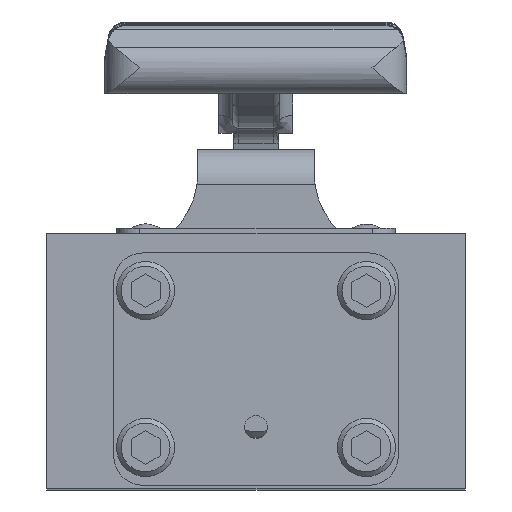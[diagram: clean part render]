
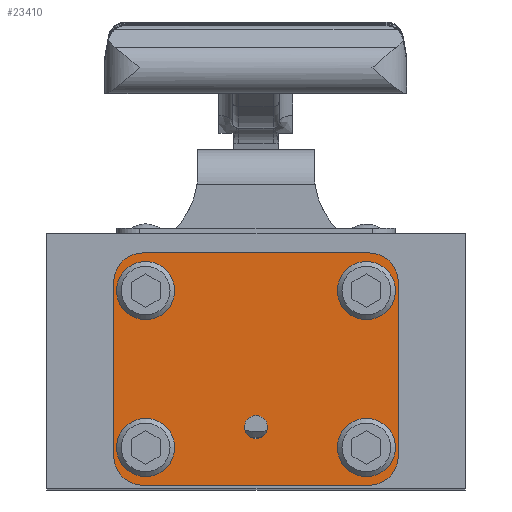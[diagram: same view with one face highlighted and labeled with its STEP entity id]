
A CAD part, top view. The second image highlights one B-rep face of the part: STEP entity #23410.
In plain terms, the highlighted planar face has unit normal (0, 0, 1).
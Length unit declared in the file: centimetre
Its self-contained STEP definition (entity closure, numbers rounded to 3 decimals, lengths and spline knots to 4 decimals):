
#1947=LINE('',#41058,#3497);
#1955=LINE('',#41078,#3505);
#1963=LINE('',#41098,#3513);
#1971=LINE('',#41118,#3521);
#3497=VECTOR('',#30058,3.0963);
#3505=VECTOR('',#30074,2.3825);
#3513=VECTOR('',#30090,3.0963);
#3521=VECTOR('',#30106,2.3825);
#4498=FACE_BOUND('',#7353,.T.);
#4499=FACE_BOUND('',#7354,.T.);
#4500=FACE_BOUND('',#7355,.T.);
#4501=FACE_BOUND('',#7356,.T.);
#4502=FACE_BOUND('',#7357,.T.);
#5862=FACE_OUTER_BOUND('',#7352,.T.);
#7352=EDGE_LOOP('',(#18437,#18438,#18439,#18440,#18441,#18442,#18443,#18444));
#7353=EDGE_LOOP('',(#18445));
#7354=EDGE_LOOP('',(#18446));
#7355=EDGE_LOOP('',(#18447));
#7356=EDGE_LOOP('',(#18448));
#7357=EDGE_LOOP('',(#18449));
#8733=CIRCLE('',#25483,0.3962);
#8734=CIRCLE('',#25484,0.3962);
#8735=CIRCLE('',#25485,0.3962);
#8736=CIRCLE('',#25486,0.3962);
#8737=CIRCLE('',#25487,0.3969);
#8738=CIRCLE('',#25488,0.3969);
#8739=CIRCLE('',#25489,0.3969);
#8740=CIRCLE('',#25490,0.3969);
#8741=CIRCLE('',#25491,0.1588);
#10306=VERTEX_POINT('',#41055);
#10307=VERTEX_POINT('',#41057);
#10314=VERTEX_POINT('',#41075);
#10315=VERTEX_POINT('',#41077);
#10322=VERTEX_POINT('',#41095);
#10323=VERTEX_POINT('',#41097);
#10330=VERTEX_POINT('',#41115);
#10331=VERTEX_POINT('',#41117);
#10342=VERTEX_POINT('',#41156);
#10343=VERTEX_POINT('',#41158);
#10344=VERTEX_POINT('',#41160);
#10345=VERTEX_POINT('',#41162);
#10346=VERTEX_POINT('',#41164);
#13176=EDGE_CURVE('',#10306,#10307,#1947,.T.);
#13186=EDGE_CURVE('',#10314,#10315,#1955,.T.);
#13196=EDGE_CURVE('',#10322,#10323,#1963,.T.);
#13206=EDGE_CURVE('',#10330,#10331,#1971,.T.);
#13224=EDGE_CURVE('',#10315,#10322,#8733,.T.);
#13225=EDGE_CURVE('',#10307,#10314,#8734,.T.);
#13226=EDGE_CURVE('',#10331,#10306,#8735,.T.);
#13227=EDGE_CURVE('',#10323,#10330,#8736,.T.);
#13228=EDGE_CURVE('',#10342,#10342,#8737,.T.);
#13229=EDGE_CURVE('',#10343,#10343,#8738,.T.);
#13230=EDGE_CURVE('',#10344,#10344,#8739,.T.);
#13231=EDGE_CURVE('',#10345,#10345,#8740,.T.);
#13232=EDGE_CURVE('',#10346,#10346,#8741,.T.);
#18437=ORIENTED_EDGE('',*,*,#13224,.F.);
#18438=ORIENTED_EDGE('',*,*,#13186,.F.);
#18439=ORIENTED_EDGE('',*,*,#13225,.F.);
#18440=ORIENTED_EDGE('',*,*,#13176,.F.);
#18441=ORIENTED_EDGE('',*,*,#13226,.F.);
#18442=ORIENTED_EDGE('',*,*,#13206,.F.);
#18443=ORIENTED_EDGE('',*,*,#13227,.F.);
#18444=ORIENTED_EDGE('',*,*,#13196,.F.);
#18445=ORIENTED_EDGE('',*,*,#13228,.T.);
#18446=ORIENTED_EDGE('',*,*,#13229,.T.);
#18447=ORIENTED_EDGE('',*,*,#13230,.T.);
#18448=ORIENTED_EDGE('',*,*,#13231,.T.);
#18449=ORIENTED_EDGE('',*,*,#13232,.T.);
#21022=PLANE('',#25482);
#23410=ADVANCED_FACE('',(#5862,#4498,#4499,#4500,#4501,#4502),#21022,.T.);
#25482=AXIS2_PLACEMENT_3D('',#41151,#30140,#30141);
#25483=AXIS2_PLACEMENT_3D('',#41152,#30142,#30143);
#25484=AXIS2_PLACEMENT_3D('',#41153,#30144,#30145);
#25485=AXIS2_PLACEMENT_3D('',#41154,#30146,#30147);
#25486=AXIS2_PLACEMENT_3D('',#41155,#30148,#30149);
#25487=AXIS2_PLACEMENT_3D('',#41157,#30150,#30151);
#25488=AXIS2_PLACEMENT_3D('',#41159,#30152,#30153);
#25489=AXIS2_PLACEMENT_3D('',#41161,#30154,#30155);
#25490=AXIS2_PLACEMENT_3D('',#41163,#30156,#30157);
#25491=AXIS2_PLACEMENT_3D('',#41165,#30158,#30159);
#30058=DIRECTION('',(1.,0.,0.));
#30074=DIRECTION('',(0.,-1.,0.));
#30090=DIRECTION('',(-1.,0.,0.));
#30106=DIRECTION('',(0.,1.,0.));
#30140=DIRECTION('center_axis',(0.,0.,
1.));
#30141=DIRECTION('ref_axis',(1.,0.,0.));
#30142=DIRECTION('center_axis',(0.,0.,
-1.));
#30143=DIRECTION('ref_axis',(0.707,-0.707,0.));
#30144=DIRECTION('center_axis',(0.,0.,
-1.));
#30145=DIRECTION('ref_axis',(0.707,0.707,0.));
#30146=DIRECTION('center_axis',(0.,0.,
-1.));
#30147=DIRECTION('ref_axis',(-0.707,0.707,0.));
#30148=DIRECTION('center_axis',(0.,0.,
-1.));
#30149=DIRECTION('ref_axis',(-0.707,-0.707,0.));
#30150=DIRECTION('center_axis',(0.,0.,
-1.));
#30151=DIRECTION('ref_axis',(-1.,0.,0.));
#30152=DIRECTION('center_axis',(0.,0.,
-1.));
#30153=DIRECTION('ref_axis',(-1.,0.,0.));
#30154=DIRECTION('center_axis',(0.,0.,
-1.));
#30155=DIRECTION('ref_axis',(-1.,0.,0.));
#30156=DIRECTION('center_axis',(0.,0.,
-1.));
#30157=DIRECTION('ref_axis',(-1.,0.,0.));
#30158=DIRECTION('center_axis',(0.,0.,
-1.));
#30159=DIRECTION('ref_axis',(-1.,0.,0.));
#41055=CARTESIAN_POINT('',(-1.5481,1.5875,5.0076));
#41057=CARTESIAN_POINT('',(1.5481,1.5875,5.0076));
#41058=CARTESIAN_POINT('',(-1.9444,1.5875,5.0076));
#41075=CARTESIAN_POINT('',(1.9444,1.1913,5.0076));
#41077=CARTESIAN_POINT('',(1.9444,-1.1913,5.0076));
#41078=CARTESIAN_POINT('',(1.9444,1.5875,5.0076));
#41095=CARTESIAN_POINT('',(1.5481,-1.5875,5.0076));
#41097=CARTESIAN_POINT('',(-1.5481,-1.5875,5.0076));
#41098=CARTESIAN_POINT('',(1.9444,-1.5875,5.0076));
#41115=CARTESIAN_POINT('',(-1.9444,-1.1913,5.0076));
#41117=CARTESIAN_POINT('',(-1.9444,1.1913,5.0076));
#41118=CARTESIAN_POINT('',(-1.9444,-1.5875,5.0076));
#41151=CARTESIAN_POINT('Origin',(0.,0.,
5.0076));
#41152=CARTESIAN_POINT('Origin',(1.5481,-1.1913,5.0076));
#41153=CARTESIAN_POINT('Origin',(1.5481,1.1913,5.0076));
#41154=CARTESIAN_POINT('Origin',(-1.5481,1.1913,5.0076));
#41155=CARTESIAN_POINT('Origin',(-1.5481,-1.1913,5.0076));
#41156=CARTESIAN_POINT('',(-1.1119,-1.0719,5.0076));
#41157=CARTESIAN_POINT('Origin',(-1.5088,-1.0719,5.0076));
#41158=CARTESIAN_POINT('',(1.9056,-1.0719,5.0076));
#41159=CARTESIAN_POINT('Origin',(1.5088,-1.0719,5.0076));
#41160=CARTESIAN_POINT('',(1.9056,1.0719,5.0076));
#41161=CARTESIAN_POINT('Origin',(1.5088,1.0719,5.0076));
#41162=CARTESIAN_POINT('',(-1.1119,1.0719,5.0076));
#41163=CARTESIAN_POINT('Origin',(-1.5088,1.0719,5.0076));
#41164=CARTESIAN_POINT('',(0.1588,-0.7925,5.0076));
#41165=CARTESIAN_POINT('Origin',(0.,-0.7925,5.0076));
